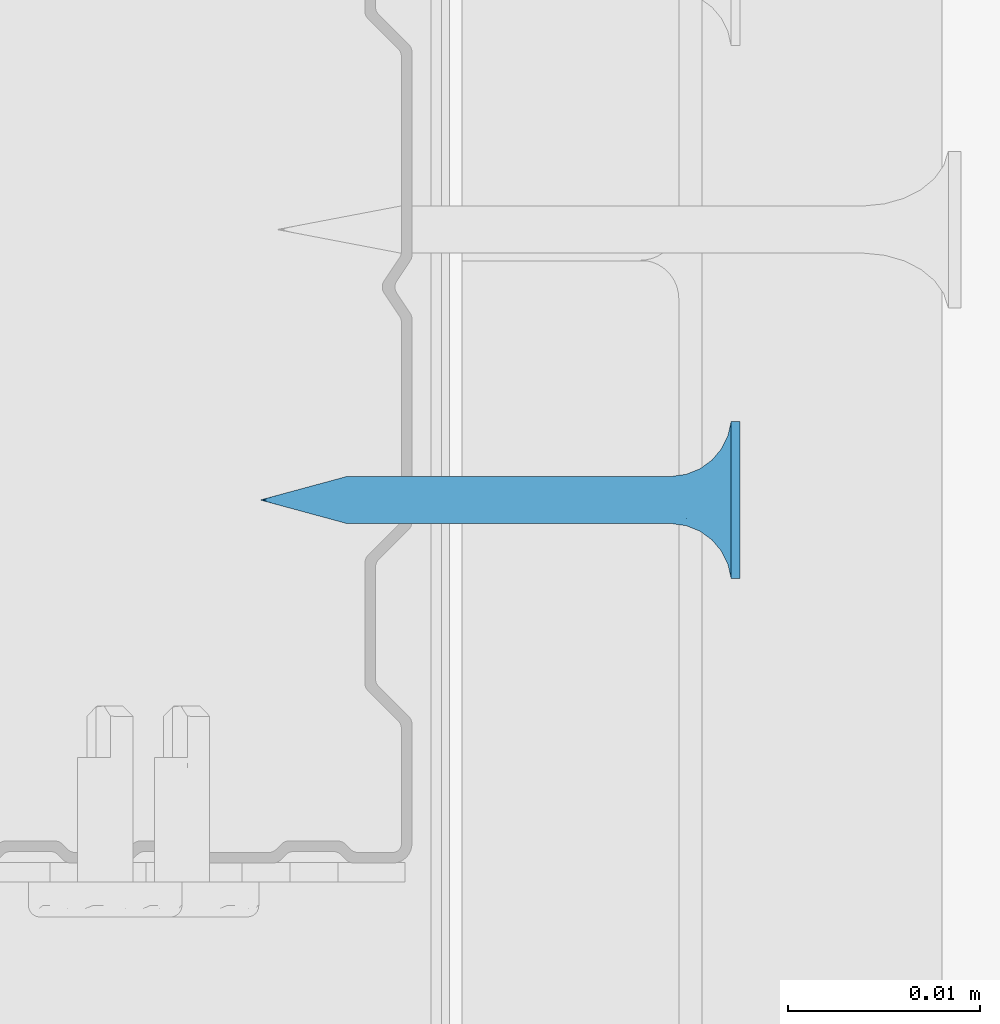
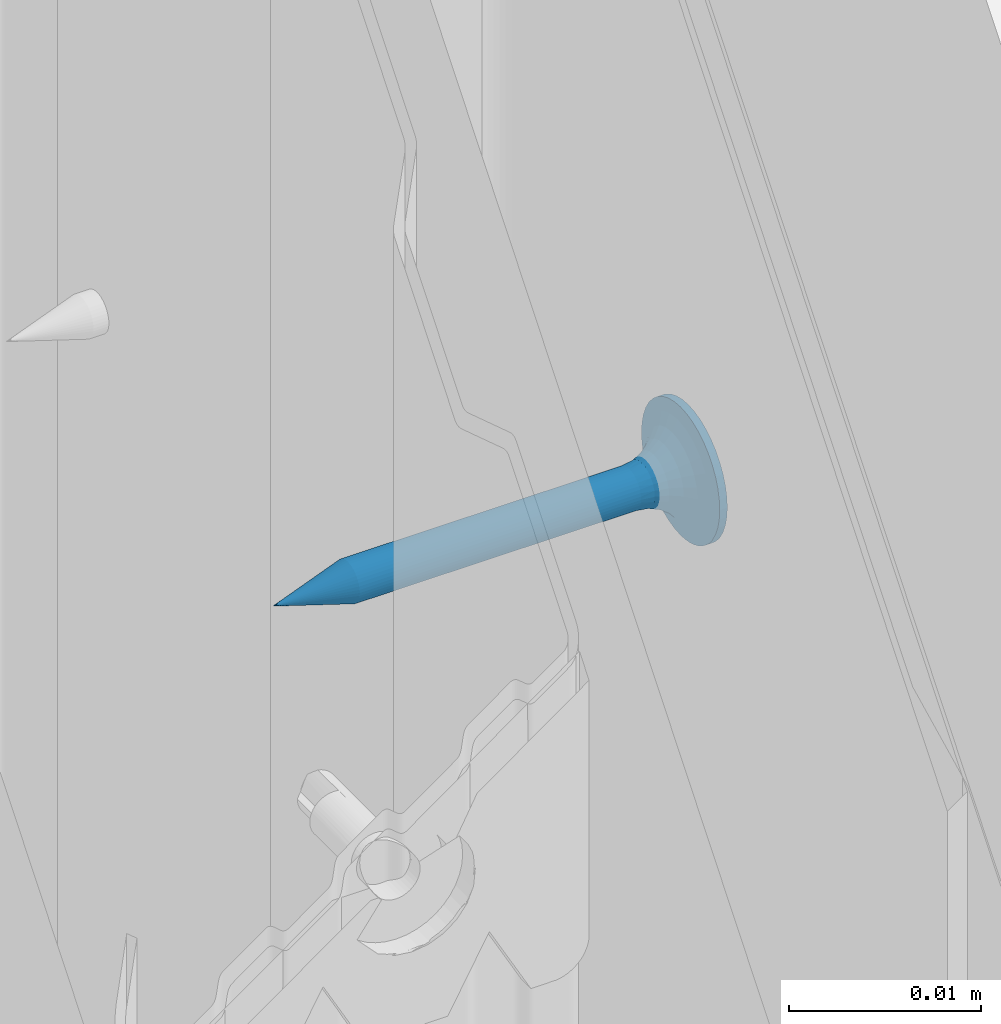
# One storey, part 33 of 61: 1 wall.
"""IFC2X3 building model written with IfcOpenShell, lengths in millimetres."""

from ifc_helpers import new_model, si_unit, frame, origin_with_axes, place, context, subcontext, project, spatial, faceted_brep, material, type_object, element, save


model = new_model("IFC2X3")

# Units and contexts
model_context = context("Model", 3, world=origin_with_axes())
body_context = subcontext(model_context, "Body", "Model", "MODEL_VIEW")
ifc_project = project(units=[si_unit("LENGTHUNIT", "METRE", prefix="MILLI"), si_unit("AREAUNIT", "SQUARE_METRE"), si_unit("VOLUMEUNIT", "CUBIC_METRE")], contexts=[model_context])

# Site, building, storey
site_placement = place(None, frame((2152.1410261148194, -2015.0250894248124, 57.61556563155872), z_axis=(0.0, 0.0, 1.0), x_axis=(-1.1102230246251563e-16, 1.0, 0.0)))
site = spatial("IfcSite", under=ifc_project, at=site_placement, Name="Default Site", CompositionType="ELEMENT")
building_placement = place(site_placement, origin_with_axes())
building = spatial("IfcBuilding", under=site, at=building_placement, Name="Default Building", CompositionType="ELEMENT")
storey_placement = place(building_placement, origin_with_axes())
storey = spatial("IfcBuildingStorey", under=building, at=storey_placement, Name="Default Building Storey", CompositionType="ELEMENT", Elevation=57.61556563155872)

# Wall
ifc_material = material(Name="Undefined6")
wall_type = type_object("IfcWallType", Name="Wkręt RIGIPS TN 25#7", PredefinedType="NOTDEFINED")
wall_placement = place(storey_placement, frame((2364.4038704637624, 5317.713057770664, -451.17122835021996), z_axis=(0.0, 0.0, 1.0), x_axis=(1.0, 0.0, 0.0)))
element("IfcWall", 1, at=wall_placement, inside=storey, type_object=wall_type, material=ifc_material, Name="Wkręt RIGIPS TN 25", context=body_context, shape_type="Brep", body=[
    faceted_brep([(-141.48753293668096, -3390.5567221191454, 555.1619773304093), (-141.48753293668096, -3391.0209445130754, 555.1619773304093), (-141.53774659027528, -3391.0209445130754, 555.8000000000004), (-141.53774659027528, -3390.5567221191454, 555.8000000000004), (-141.33812900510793, -3390.5567221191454, 554.5396649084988), (-141.33812900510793, -3391.0209445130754, 554.5396649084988), (-141.0932132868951, -3390.5567221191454, 553.948386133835), (-141.0932132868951, -3391.0209445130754, 553.948386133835), (-140.75881656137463, -3390.5567221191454, 553.4027002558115), (-140.75881656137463, -3391.0209445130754, 553.4027002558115), (-140.34317265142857, -3391.0209445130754, 552.9160436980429), (-140.45417279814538, -3390.5567221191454, 553.0314906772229), (-139.85651609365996, -3391.0209445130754, 552.5003997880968), (-140.10800974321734, -3390.5567221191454, 552.6986613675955), (-139.72512626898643, -3390.5567221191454, 552.4088260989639), (-139.3108302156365, -3391.0209445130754, 552.1660030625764), (-139.3108302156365, -3390.5567221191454, 552.1660030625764), (-138.7195514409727, -3391.0209445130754, 551.9210873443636), (-138.87086516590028, -3390.5567221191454, 551.9735585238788), (-138.41133029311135, -3390.5567221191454, 551.8341602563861), (-138.09723901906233, -3391.0209445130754, 551.7716834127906), (-137.93859616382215, -3390.5567221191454, 551.7497405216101), (-137.45921634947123, -3391.0209445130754, 551.7214697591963), (-137.45921634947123, -3390.5567221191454, 551.7214697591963), (-136.82119367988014, -3390.5567221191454, 551.7716834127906), (-136.82119367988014, -3391.0209445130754, 551.7716834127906), (-136.19888125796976, -3390.5567221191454, 551.9210873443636), (-136.19888125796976, -3391.0209445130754, 551.9210873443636), (-135.60760248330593, -3390.5567221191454, 552.1660030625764), (-135.60760248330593, -3391.0209445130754, 552.1660030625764), (-135.06191660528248, -3390.5567221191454, 552.5003997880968), (-135.06191660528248, -3391.0209445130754, 552.5003997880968), (-134.5752600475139, -3390.5567221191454, 552.9160436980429), (-134.5752600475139, -3391.0209445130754, 552.9160436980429), (-134.1596161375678, -3390.5567221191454, 553.4027002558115), (-134.1596161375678, -3391.0209445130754, 553.4027002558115), (-133.82521941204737, -3390.5567221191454, 553.948386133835), (-133.82521941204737, -3391.0209445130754, 553.948386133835), (-133.58030369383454, -3390.5567221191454, 554.5396649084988), (-133.58030369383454, -3391.0209445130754, 554.5396649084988), (-133.3806861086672, -3391.0209445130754, 555.8000000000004), (-133.3806861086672, -3390.5567221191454, 555.8000000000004), (-133.43089976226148, -3390.5567221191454, 556.4380226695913), (-133.43089976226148, -3391.0209445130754, 556.4380226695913), (-133.43089976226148, -3391.0209445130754, 555.1619773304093), (-133.43089976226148, -3390.5567221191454, 555.1619773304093), (-133.58030369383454, -3390.5567221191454, 557.0603350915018), (-133.58030369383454, -3391.0209445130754, 557.0603350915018), (-133.82521941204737, -3390.5567221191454, 557.6516138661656), (-133.82521941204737, -3391.0209445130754, 557.6516138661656), (-134.1596161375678, -3390.5567221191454, 558.1972997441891), (-134.1596161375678, -3391.0209445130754, 558.1972997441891), (-134.5752600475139, -3390.5567221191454, 558.6839563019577), (-134.5752600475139, -3391.0209445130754, 558.6839563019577), (-135.06191660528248, -3390.5567221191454, 559.0996002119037), (-135.06191660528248, -3391.0209445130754, 559.0996002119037), (-135.60760248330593, -3390.5567221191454, 559.4339969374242), (-135.60760248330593, -3391.0209445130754, 559.4339969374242), (-136.19888125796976, -3390.5567221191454, 559.678912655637), (-136.19888125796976, -3391.0209445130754, 559.678912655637), (-136.82119367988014, -3390.5567221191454, 559.82831658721), (-136.82119367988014, -3391.0209445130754, 559.82831658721), (-137.45921634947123, -3390.5567221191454, 559.8785302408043), (-137.45921634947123, -3391.0209445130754, 559.8785302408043), (-138.09723901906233, -3390.5567221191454, 559.82831658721), (-138.09723901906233, -3391.0209445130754, 559.82831658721), (-138.7195514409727, -3390.5567221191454, 559.678912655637), (-138.7195514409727, -3391.0209445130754, 559.678912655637), (-139.3108302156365, -3390.5567221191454, 559.4339969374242), (-139.3108302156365, -3391.0209445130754, 559.4339969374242), (-139.85651609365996, -3390.5567221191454, 559.0996002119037), (-139.85651609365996, -3391.0209445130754, 559.0996002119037), (-140.34317265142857, -3390.5567221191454, 558.6839563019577), (-140.34317265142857, -3391.0209445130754, 558.6839563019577), (-140.75881656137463, -3390.5567221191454, 558.1972997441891), (-140.75881656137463, -3391.0209445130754, 558.1972997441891), (-141.0932132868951, -3390.5567221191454, 557.6516138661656), (-141.0932132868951, -3391.0209445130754, 557.6516138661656), (-141.33812900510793, -3390.5567221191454, 557.0603350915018), (-141.33812900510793, -3391.0209445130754, 557.0603350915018), (-141.48753293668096, -3390.5567221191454, 556.4380226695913), (-141.48753293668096, -3391.0209445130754, 556.4380226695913), (-137.65172779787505, -3387.475459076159, 554.5845305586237), (-137.45921634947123, -3387.475459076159, 554.5693795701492), (-137.8060615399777, -3388.2297325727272, 554.5055561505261), (-137.45921634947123, -3388.2297325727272, 554.4598930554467), (-137.839498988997, -3387.475459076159, 554.6296104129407), (-138.12926982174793, -3388.2297325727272, 554.6394333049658), (-138.0179063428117, -3387.475459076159, 554.7035091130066), (-138.18255689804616, -3387.475459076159, 554.8044072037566), (-138.40681506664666, -3388.2297325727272, 554.8524012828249), (-138.32939643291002, -3387.475459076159, 554.9298199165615), (-138.454809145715, -3387.475459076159, 555.0766594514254), (-138.61978304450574, -3388.2297325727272, 555.1299465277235), (-138.5557072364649, -3387.475459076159, 555.2413100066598), (-138.7536601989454, -3388.2297325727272, 555.4531548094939), (-138.62960593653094, -3387.475459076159, 555.4197173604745), (-138.6746857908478, -3387.475459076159, 555.6074885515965), (-138.79932329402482, -3388.2297325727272, 555.7999999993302), (-138.68983677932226, -3387.475459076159, 555.8000000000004), (-138.6746857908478, -3387.475459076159, 555.9925114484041), (-138.7536601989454, -3388.2297325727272, 556.1468451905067), (-138.62960593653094, -3387.475459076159, 556.1802826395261), (-138.61978304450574, -3388.2297325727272, 556.4700534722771), (-138.5557072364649, -3387.475459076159, 556.3586899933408), (-138.454809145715, -3387.475459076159, 556.5233405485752), (-138.40681506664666, -3388.2297325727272, 556.7475987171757), (-138.32939643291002, -3387.475459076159, 556.670180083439), (-138.18255689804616, -3387.475459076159, 556.795592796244), (-138.12926982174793, -3388.2297325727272, 556.9605666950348), (-138.0179063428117, -3387.475459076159, 556.896490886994), (-137.8060615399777, -3388.2297325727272, 557.0944438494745), (-137.839498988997, -3387.475459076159, 556.9703895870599), (-137.65172779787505, -3387.475459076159, 557.0154694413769), (-137.45921634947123, -3388.2297325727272, 557.1401069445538), (-137.45921634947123, -3387.475459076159, 557.0306204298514), (-137.26670490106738, -3387.475459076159, 557.0154694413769), (-137.11237115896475, -3388.2297325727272, 557.0944438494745), (-137.07893370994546, -3387.475459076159, 556.9703895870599), (-136.78916287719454, -3388.2297325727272, 556.9605666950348), (-136.90052635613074, -3387.475459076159, 556.896490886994), (-136.7358758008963, -3387.475459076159, 556.795592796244), (-136.5116176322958, -3388.2297325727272, 556.7475987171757), (-136.58903626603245, -3387.475459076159, 556.670180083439), (-136.46362355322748, -3387.475459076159, 556.5233405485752), (-136.29864965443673, -3388.2297325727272, 556.4700534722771), (-136.36272546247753, -3387.475459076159, 556.3586899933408), (-136.16477249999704, -3388.2297325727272, 556.1468451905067), (-136.28882676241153, -3387.475459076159, 556.1802826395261), (-136.24374690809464, -3387.475459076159, 555.9925114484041), (-136.11910940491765, -3388.2297325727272, 555.7999999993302), (-136.2285959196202, -3387.475459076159, 555.8000000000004), (-136.24374690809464, -3387.475459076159, 555.6074885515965), (-136.16477249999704, -3388.2297325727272, 555.4531548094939), (-136.28882676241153, -3387.475459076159, 555.4197173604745), (-136.29864965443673, -3388.2297325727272, 555.1299465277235), (-136.36272546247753, -3387.475459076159, 555.2413100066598), (-136.46362355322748, -3387.475459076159, 555.0766594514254), (-136.5116176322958, -3388.2297325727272, 554.8524012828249), (-136.58903626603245, -3387.475459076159, 554.9298199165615), (-136.7358758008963, -3387.475459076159, 554.8044072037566), (-136.78916287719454, -3388.2297325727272, 554.6394333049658), (-136.90052635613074, -3387.475459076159, 554.7035091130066), (-137.11237115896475, -3388.2297325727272, 554.5055561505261), (-137.07893370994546, -3387.475459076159, 554.6296104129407), (-137.26670490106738, -3387.475459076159, 554.5845305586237), (-137.45921634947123, -3388.9361426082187, 554.1737111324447), (-137.88013087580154, -3388.9361426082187, 554.2291255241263), (-138.27236078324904, -3388.9361426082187, 554.3915925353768), (-138.60917621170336, -3388.9361426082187, 554.6500401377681), (-138.86762381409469, -3388.9361426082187, 554.9868555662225), (-139.03009082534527, -3388.9361426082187, 555.37908547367), (-139.08550521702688, -3388.9361426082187, 555.7999999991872), (-139.03009082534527, -3388.9361426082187, 556.2209145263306), (-138.86762381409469, -3388.9361426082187, 556.6131444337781), (-138.60917621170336, -3388.9361426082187, 556.9499598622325), (-138.27236078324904, -3388.9361426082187, 557.2084074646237), (-137.88013087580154, -3388.9361426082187, 557.3708744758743), (-137.45921634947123, -3388.9361426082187, 557.4262888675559), (-137.0383018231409, -3388.9361426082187, 557.3708744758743), (-136.6460719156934, -3388.9361426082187, 557.2084074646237), (-136.30925648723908, -3388.9361426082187, 556.9499598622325), (-136.05080888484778, -3388.9361426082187, 556.6131444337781), (-135.8883418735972, -3388.9361426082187, 556.2209145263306), (-135.8329274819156, -3388.9361426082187, 555.7999999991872), (-135.8883418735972, -3388.9361426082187, 555.37908547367), (-136.05080888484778, -3388.9361426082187, 554.9868555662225), (-136.30925648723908, -3388.9361426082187, 554.6500401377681), (-136.6460719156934, -3388.9361426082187, 554.3915925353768), (-137.0383018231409, -3388.9361426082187, 554.2291255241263), (-137.45921634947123, -3389.5539382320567, 553.7273430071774), (-137.9956594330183, -3389.5539382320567, 553.7979670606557), (-138.49554484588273, -3389.5539382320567, 554.0050264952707), (-138.92480608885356, -3389.5539382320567, 554.334410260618), (-139.2541898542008, -3389.5539382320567, 554.7636715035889), (-139.46124928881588, -3389.5539382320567, 555.2635569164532), (-139.53187334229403, -3389.5539382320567, 555.7999999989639), (-139.46124928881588, -3389.5539382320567, 556.3364430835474), (-139.2541898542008, -3389.5539382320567, 556.8363284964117), (-138.92480608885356, -3389.5539382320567, 557.2655897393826), (-138.49554484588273, -3389.5539382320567, 557.5949735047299), (-137.9956594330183, -3389.5539382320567, 557.8020329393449), (-137.45921634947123, -3389.5539382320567, 557.8726569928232), (-136.92277326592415, -3389.5539382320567, 557.8020329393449), (-136.42288785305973, -3389.5539382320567, 557.5949735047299), (-135.9936266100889, -3389.5539382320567, 557.2655897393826), (-135.66424284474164, -3389.5539382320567, 556.8363284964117), (-135.4571834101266, -3389.5539382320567, 556.3364430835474), (-135.38655935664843, -3389.5539382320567, 555.7999999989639), (-135.4571834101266, -3389.5539382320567, 555.2635569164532), (-135.66424284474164, -3389.5539382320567, 554.7636715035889), (-135.9936266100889, -3389.5539382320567, 554.334410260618), (-136.42288785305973, -3389.5539382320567, 554.0050264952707), (-136.92277326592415, -3389.5539382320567, 553.7979670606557), (-137.45921634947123, -3390.047479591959, 553.1465392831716), (-138.14598252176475, -3390.047479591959, 553.2369539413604), (-138.78594670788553, -3390.047479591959, 553.5020355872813), (-139.33549641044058, -3390.047479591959, 553.923719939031), (-139.75718076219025, -3390.047479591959, 554.473269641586), (-140.02226240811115, -3390.047479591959, 555.1132338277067), (-140.1126770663, -3390.047479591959, 555.7999999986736), (-140.02226240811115, -3390.047479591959, 556.4867661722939), (-139.75718076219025, -3390.047479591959, 557.1267303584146), (-139.33549641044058, -3390.047479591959, 557.6762800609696), (-138.78594670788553, -3390.047479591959, 558.0979644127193), (-138.14598252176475, -3390.047479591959, 558.3630460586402), (-137.45921634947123, -3390.047479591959, 558.453460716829), (-136.77245017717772, -3390.047479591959, 558.3630460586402), (-136.13248599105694, -3390.047479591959, 558.0979644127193), (-135.58293628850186, -3390.047479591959, 557.6762800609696), (-135.16125193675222, -3390.047479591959, 557.1267303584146), (-134.89617029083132, -3390.047479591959, 556.4867661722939), (-134.80575563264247, -3390.047479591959, 555.7999999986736), (-134.89617029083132, -3390.047479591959, 555.1132338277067), (-135.16125193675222, -3390.047479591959, 554.473269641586), (-135.58293628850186, -3390.047479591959, 553.923719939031), (-136.13248599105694, -3390.047479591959, 553.5020355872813), (-136.77245017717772, -3390.047479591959, 553.2369539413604), (-137.45921634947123, -3390.3882942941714, 552.4648055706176), (-138.32242816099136, -3390.3882942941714, 552.5784495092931), (-139.1268135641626, -3390.3882942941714, 552.9116369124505), (-139.81755491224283, -3390.3882942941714, 553.4416614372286), (-140.347579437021, -3390.3882942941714, 554.132402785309), (-140.6807668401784, -3390.3882942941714, 554.9367881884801), (-140.79441077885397, -3390.3882942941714, 555.7999999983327), (-140.6807668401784, -3390.3882942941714, 556.6632118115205), (-140.347579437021, -3390.3882942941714, 557.4675972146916), (-139.81755491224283, -3390.3882942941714, 558.158338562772), (-139.1268135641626, -3390.3882942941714, 558.6883630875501), (-138.32242816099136, -3390.3882942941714, 559.0215504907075), (-137.45921634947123, -3390.3882942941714, 559.135194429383), (-136.59600453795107, -3390.3882942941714, 559.0215504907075), (-135.79161913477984, -3390.3882942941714, 558.6883630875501), (-135.10087778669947, -3390.3882942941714, 558.158338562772), (-134.57085326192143, -3390.3882942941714, 557.4675972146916), (-134.23766585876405, -3390.3882942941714, 556.6632118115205), (-134.12402192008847, -3390.3882942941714, 555.7999999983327), (-134.23766585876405, -3390.3882942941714, 554.9367881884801), (-134.57085326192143, -3390.3882942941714, 554.132402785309), (-135.10087778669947, -3390.3882942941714, 553.4416614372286), (-135.79161913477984, -3390.3882942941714, 552.9116369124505), (-136.59600453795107, -3390.3882942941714, 552.5784495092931), (-138.6746857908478, -3370.558073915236, 555.6074885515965), (-138.68983677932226, -3370.558073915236, 555.8000000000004), (-138.62960593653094, -3370.558073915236, 555.4197173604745), (-138.5557072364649, -3370.558073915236, 555.2413100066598), (-138.454809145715, -3370.558073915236, 555.0766594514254), (-138.32939643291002, -3370.558073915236, 554.9298199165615), (-138.18255689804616, -3370.558073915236, 554.8044072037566), (-138.0179063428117, -3370.558073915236, 554.7035091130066), (-137.839498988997, -3370.558073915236, 554.6296104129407), (-137.65172779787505, -3370.558073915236, 554.5845305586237), (-137.45921634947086, -3370.558073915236, 554.5693795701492), (-137.26670490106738, -3370.558073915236, 554.5845305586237), (-137.07893370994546, -3370.558073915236, 554.6296104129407), (-136.90052635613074, -3370.558073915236, 554.7035091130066), (-136.7358758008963, -3370.558073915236, 554.8044072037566), (-136.58903626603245, -3370.558073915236, 554.9298199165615), (-136.46362355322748, -3370.558073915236, 555.0766594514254), (-136.36272546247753, -3370.558073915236, 555.2413100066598), (-136.28882676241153, -3370.558073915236, 555.4197173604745), (-136.2285959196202, -3370.558073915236, 555.8000000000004), (-136.24374690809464, -3370.558073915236, 555.9925114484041), (-136.24374690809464, -3370.558073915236, 555.6074885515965), (-136.28882676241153, -3370.558073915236, 556.1802826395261), (-136.36272546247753, -3370.558073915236, 556.3586899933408), (-136.46362355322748, -3370.558073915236, 556.5233405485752), (-136.58903626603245, -3370.558073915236, 556.670180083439), (-136.7358758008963, -3370.558073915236, 556.795592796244), (-136.90052635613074, -3370.558073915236, 556.896490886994), (-137.07893370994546, -3370.558073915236, 556.9703895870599), (-137.26670490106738, -3370.558073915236, 557.0154694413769), (-137.45921634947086, -3370.558073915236, 557.0306204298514), (-137.65172779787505, -3370.558073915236, 557.0154694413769), (-137.839498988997, -3370.558073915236, 556.9703895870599), (-138.0179063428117, -3370.558073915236, 556.896490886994), (-138.18255689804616, -3370.558073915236, 556.795592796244), (-138.32939643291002, -3370.558073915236, 556.670180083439), (-138.454809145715, -3370.558073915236, 556.5233405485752), (-138.5557072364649, -3370.558073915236, 556.3586899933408), (-138.62960593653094, -3370.558073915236, 556.1802826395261), (-138.6746857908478, -3370.558073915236, 555.9925114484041), (-137.45921634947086, -3366.0210335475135, 555.8000000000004), (-139.95921629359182, -3391.0209445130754, 555.2999999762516), (-139.95921629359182, -3391.0209445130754, 556.300000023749), (-137.95921637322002, -3391.0209445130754, 556.300000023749), (-137.95921637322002, -3391.0209445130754, 558.2999999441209), (-136.95921632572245, -3391.0209445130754, 558.2999999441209), (-136.95921632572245, -3391.0209445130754, 556.300000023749), (-134.95921640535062, -3391.0209445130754, 556.300000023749), (-134.95921640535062, -3391.0209445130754, 555.2999999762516), (-136.95921632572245, -3391.0209445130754, 555.2999999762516), (-136.95921632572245, -3391.0209445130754, 553.3000000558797), (-137.95921637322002, -3391.0209445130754, 553.3000000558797), (-137.95921637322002, -3391.0209445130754, 555.2999999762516), (-136.95921632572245, -3390.6289749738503, 558.2999999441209), (-137.95921637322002, -3390.6289749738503, 558.2999999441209), (-137.95921637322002, -3390.6289749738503, 556.300000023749), (-139.95921629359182, -3390.6289749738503, 556.300000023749), (-139.95921629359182, -3390.6289749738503, 555.2999999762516), (-137.95921637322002, -3390.6289749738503, 555.2999999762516), (-137.95921637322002, -3390.6289749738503, 553.3000000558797), (-136.95921632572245, -3390.6289749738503, 553.3000000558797), (-136.95921632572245, -3390.6289749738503, 555.2999999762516), (-134.95921640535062, -3390.6289749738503, 555.2999999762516), (-134.95921640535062, -3390.6289749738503, 556.300000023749), (-136.95921632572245, -3390.6289749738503, 556.300000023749)], [[[0, 1, 2, 3]], [[1, 0, 4, 5]], [[5, 4, 6, 7]], [[8, 9, 7, 6]], [[8, 10, 9]], [[8, 11, 10]], [[12, 11, 13]], [[12, 10, 11]], [[13, 14, 12]], [[14, 15, 12]], [[14, 16, 15]], [[17, 16, 18]], [[17, 15, 16]], [[18, 19, 17]], [[20, 19, 21]], [[20, 17, 19]], [[21, 22, 20]], [[21, 23, 22]], [[24, 25, 22, 23]], [[25, 24, 26, 27]], [[27, 26, 28, 29]], [[30, 31, 29, 28]], [[31, 30, 32, 33]], [[34, 35, 33, 32]], [[35, 34, 36, 37]], [[37, 36, 38, 39]], [[40, 41, 42, 43]], [[44, 45, 41, 40]], [[45, 44, 39, 38]], [[43, 42, 46, 47]], [[47, 46, 48, 49]], [[50, 51, 49, 48]], [[51, 50, 52, 53]], [[54, 55, 53, 52]], [[55, 54, 56, 57]], [[57, 56, 58, 59]], [[60, 61, 59, 58]], [[61, 60, 62, 63]], [[64, 65, 63, 62]], [[65, 64, 66, 67]], [[67, 66, 68, 69]], [[70, 71, 69, 68]], [[71, 70, 72, 73]], [[74, 75, 73, 72]], [[75, 74, 76, 77]], [[77, 76, 78, 79]], [[80, 81, 79, 78]], [[81, 80, 3, 2]], [[82, 83, 84]], [[83, 85, 84]], [[84, 86, 82]], [[84, 87, 88, 86]], [[89, 88, 87]], [[87, 90, 89]], [[90, 91, 89]], [[92, 91, 93]], [[91, 90, 93]], [[93, 94, 92]], [[93, 95, 96, 94]], [[97, 96, 95]], [[95, 98, 97]], [[98, 99, 97]], [[100, 99, 101]], [[99, 98, 101]], [[101, 102, 100]], [[101, 103, 104, 102]], [[105, 104, 103]], [[103, 106, 105]], [[106, 107, 105]], [[108, 107, 109]], [[107, 106, 109]], [[109, 110, 108]], [[109, 111, 112, 110]], [[113, 112, 111]], [[111, 114, 113]], [[114, 115, 113]], [[116, 115, 117]], [[115, 114, 117]], [[117, 118, 116]], [[117, 119, 120, 118]], [[121, 120, 119]], [[119, 122, 121]], [[122, 123, 121]], [[124, 123, 125]], [[123, 122, 125]], [[125, 126, 124]], [[125, 127, 128, 126]], [[129, 128, 127]], [[127, 130, 129]], [[130, 131, 129]], [[132, 131, 133]], [[131, 130, 133]], [[133, 134, 132]], [[133, 135, 136, 134]], [[137, 136, 135]], [[135, 138, 137]], [[138, 139, 137]], [[140, 139, 141]], [[139, 138, 141]], [[141, 142, 140]], [[141, 143, 144, 142]], [[145, 144, 143]], [[143, 85, 145]], [[85, 83, 145]], [[146, 147, 84, 85]], [[84, 147, 148, 87]], [[87, 148, 149, 90]], [[90, 149, 150, 93]], [[93, 150, 151, 95]], [[95, 151, 152, 98]], [[98, 152, 153, 101]], [[101, 153, 154, 103]], [[103, 154, 155, 106]], [[106, 155, 156, 109]], [[109, 156, 157, 111]], [[111, 157, 158, 114]], [[114, 158, 159, 117]], [[117, 159, 160, 119]], [[119, 160, 161, 122]], [[122, 161, 162, 125]], [[125, 162, 163, 127]], [[127, 163, 164, 130]], [[130, 164, 165, 133]], [[133, 165, 166, 135]], [[135, 166, 167, 138]], [[138, 167, 168, 141]], [[141, 168, 169, 143]], [[143, 169, 146, 85]], [[170, 171, 147, 146]], [[147, 171, 172, 148]], [[148, 172, 173, 149]], [[149, 173, 174, 150]], [[150, 174, 175, 151]], [[151, 175, 176, 152]], [[152, 176, 177, 153]], [[153, 177, 178, 154]], [[154, 178, 179, 155]], [[155, 179, 180, 156]], [[156, 180, 181, 157]], [[157, 181, 182, 158]], [[158, 182, 183, 159]], [[159, 183, 184, 160]], [[160, 184, 185, 161]], [[161, 185, 186, 162]], [[162, 186, 187, 163]], [[163, 187, 188, 164]], [[164, 188, 189, 165]], [[165, 189, 190, 166]], [[166, 190, 191, 167]], [[167, 191, 192, 168]], [[168, 192, 193, 169]], [[169, 193, 170, 146]], [[194, 195, 171, 170]], [[171, 195, 196, 172]], [[172, 196, 197, 173]], [[173, 197, 198, 174]], [[174, 198, 199, 175]], [[175, 199, 200, 176]], [[176, 200, 201, 177]], [[177, 201, 202, 178]], [[178, 202, 203, 179]], [[179, 203, 204, 180]], [[180, 204, 205, 181]], [[181, 205, 206, 182]], [[182, 206, 207, 183]], [[183, 207, 208, 184]], [[184, 208, 209, 185]], [[185, 209, 210, 186]], [[186, 210, 211, 187]], [[187, 211, 212, 188]], [[188, 212, 213, 189]], [[189, 213, 214, 190]], [[190, 214, 215, 191]], [[191, 215, 216, 192]], [[192, 216, 217, 193]], [[193, 217, 194, 170]], [[21, 19, 218]], [[19, 219, 218]], [[218, 23, 21]], [[218, 219, 195, 194]], [[18, 16, 219]], [[16, 220, 219]], [[219, 19, 18]], [[195, 219, 220, 196]], [[13, 11, 221]], [[14, 13, 220]], [[13, 221, 220]], [[220, 16, 14]], [[196, 220, 221, 197]], [[8, 6, 222]], [[222, 221, 8]], [[221, 11, 8]], [[197, 221, 222, 198]], [[4, 223, 222, 6]], [[198, 222, 223, 199]], [[0, 3, 223]], [[3, 224, 223]], [[223, 4, 0]], [[199, 223, 224, 200]], [[80, 78, 225]], [[225, 224, 80]], [[224, 3, 80]], [[200, 224, 225, 201]], [[78, 76, 226, 225]], [[201, 225, 226, 202]], [[74, 72, 226]], [[72, 227, 226]], [[226, 76, 74]], [[202, 226, 227, 203]], [[70, 68, 228]], [[228, 227, 70]], [[227, 72, 70]], [[203, 227, 228, 204]], [[68, 66, 229, 228]], [[204, 228, 229, 205]], [[64, 62, 229]], [[62, 230, 229]], [[229, 66, 64]], [[205, 229, 230, 206]], [[60, 58, 231]], [[231, 230, 60]], [[230, 62, 60]], [[206, 230, 231, 207]], [[58, 56, 232, 231]], [[207, 231, 232, 208]], [[54, 52, 232]], [[52, 233, 232]], [[232, 56, 54]], [[208, 232, 233, 209]], [[50, 48, 234]], [[234, 233, 50]], [[233, 52, 50]], [[209, 233, 234, 210]], [[48, 46, 235, 234]], [[210, 234, 235, 211]], [[42, 41, 235]], [[41, 236, 235]], [[235, 46, 42]], [[211, 235, 236, 212]], [[45, 38, 237]], [[237, 236, 45]], [[236, 41, 45]], [[212, 236, 237, 213]], [[36, 238, 237, 38]], [[213, 237, 238, 214]], [[34, 32, 238]], [[32, 239, 238]], [[238, 36, 34]], [[214, 238, 239, 215]], [[30, 28, 240]], [[240, 239, 30]], [[239, 32, 30]], [[215, 239, 240, 216]], [[26, 241, 240, 28]], [[216, 240, 241, 217]], [[217, 241, 218, 194]], [[24, 23, 241]], [[23, 218, 241]], [[241, 26, 24]], [[242, 97, 99, 243]], [[97, 242, 244, 96]], [[96, 244, 245, 94]], [[246, 92, 94, 245]], [[92, 246, 247, 91]], [[248, 89, 91, 247]], [[89, 248, 249, 88]], [[88, 249, 250, 86]], [[251, 82, 86, 250]], [[82, 251, 252, 83]], [[253, 145, 83, 252]], [[145, 253, 254, 144]], [[144, 254, 255, 142]], [[256, 140, 142, 255]], [[140, 256, 257, 139]], [[258, 137, 139, 257]], [[137, 258, 259, 136]], [[136, 259, 260, 134]], [[131, 261, 262, 129]], [[132, 263, 261, 131]], [[263, 132, 134, 260]], [[129, 262, 264, 128]], [[128, 264, 265, 126]], [[266, 124, 126, 265]], [[124, 266, 267, 123]], [[268, 121, 123, 267]], [[121, 268, 269, 120]], [[120, 269, 270, 118]], [[271, 116, 118, 270]], [[116, 271, 272, 115]], [[273, 113, 115, 272]], [[113, 273, 274, 112]], [[112, 274, 275, 110]], [[276, 108, 110, 275]], [[108, 276, 277, 107]], [[278, 105, 107, 277]], [[105, 278, 279, 104]], [[104, 279, 280, 102]], [[281, 100, 102, 280]], [[100, 281, 243, 99]], [[282, 244, 242]], [[242, 243, 282]], [[282, 245, 244]], [[282, 247, 246]], [[246, 245, 282]], [[282, 249, 248]], [[248, 247, 282]], [[282, 250, 249]], [[282, 252, 251]], [[251, 250, 282]], [[282, 254, 253]], [[253, 252, 282]], [[282, 255, 254]], [[282, 257, 256]], [[256, 255, 282]], [[282, 259, 258]], [[258, 257, 282]], [[282, 260, 259]], [[282, 261, 263]], [[263, 260, 282]], [[282, 264, 262]], [[262, 261, 282]], [[282, 265, 264]], [[282, 267, 266]], [[266, 265, 282]], [[282, 269, 268]], [[268, 267, 282]], [[282, 270, 269]], [[282, 272, 271]], [[271, 270, 282]], [[282, 274, 273]], [[273, 272, 282]], [[282, 275, 274]], [[282, 277, 276]], [[276, 275, 282]], [[282, 279, 278]], [[278, 277, 282]], [[282, 280, 279]], [[282, 243, 281]], [[281, 280, 282]], [[75, 77, 79, 81, 2, 1, 5, 7, 9, 10, 12, 15, 17, 20, 22, 25, 27, 29, 31, 33, 35, 37, 39, 44, 40, 43, 47, 49, 51, 53, 55, 57, 59, 61, 63, 65, 67, 69, 71, 73], [283, 284, 285, 286, 287, 288, 289, 290, 291, 292, 293, 294]], [[295, 296, 297, 298, 299, 300, 301, 302, 303, 304, 305, 306]], [[303, 291, 290, 304]], [[304, 290, 289, 305]], [[305, 289, 288, 306]], [[306, 288, 287, 295]], [[295, 287, 286, 296]], [[296, 286, 285, 297]], [[297, 285, 284, 298]], [[298, 284, 283, 299]], [[299, 283, 294, 300]], [[300, 294, 293, 301]], [[301, 293, 292, 302]], [[302, 292, 291, 303]]]),
])

save(model, "model.ifc")
